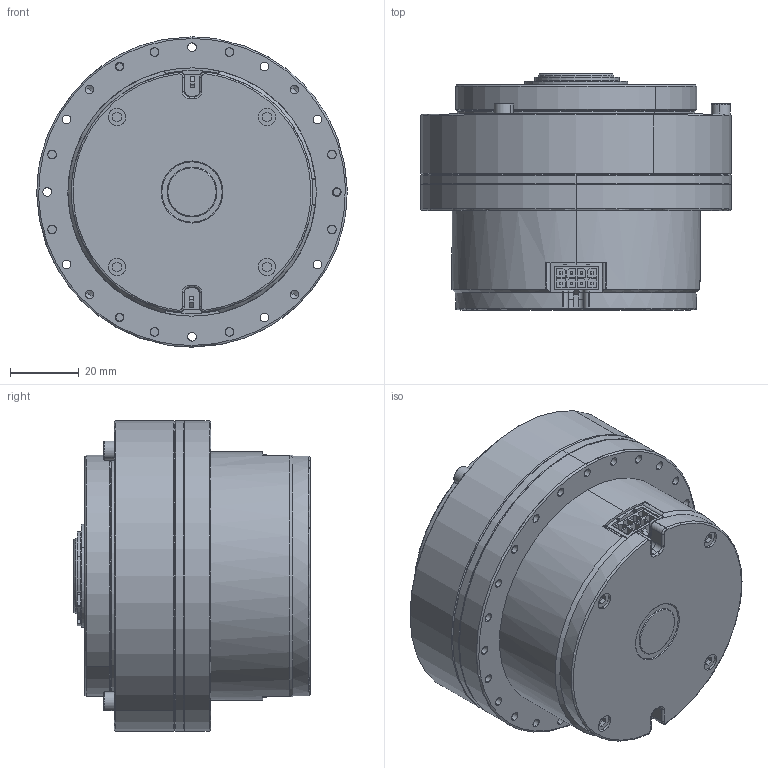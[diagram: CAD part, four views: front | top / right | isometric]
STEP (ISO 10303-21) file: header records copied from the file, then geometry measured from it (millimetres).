
FILE_DESCRIPTION (( 'STEP AP214' ), '1' );
FILE_NAME ('QDD_Pro-PR60-x-90_v2_2.STEP', '2019-07-17T03:44:57', ( 'Microsoft' ), ( 'Microsoft' ), 'SwSTEP 2.0', 'SolidWorks 2018', '' );
FILE_SCHEMA (( 'AUTOMOTIVE_DESIGN' ));
Length unit declared in the file: millimetre
Products named in the file (1): QDD_Pro-PR60-x-90_v2_2
Bounding box: 90 x 68.47 x 90 mm (x, y, z)
Volume: 270449.2 mm3; surface area: 129412 mm2
Topology: 105 solids, 105 shells, 2766 faces, 6818 edges, 4317 vertices
Faces by surface type: plane 1519, cylinder 742, cone 390, bspline 71, torus 44
Entity records: 125350 total; most frequent: CARTESIAN_POINT 30280, ORIENTED_EDGE 13516, DIRECTION 12141, EDGE_CURVE 6758, VERTEX_POINT 4317, LINE 4291, VECTOR 4291, AXIS2_PLACEMENT_3D 3925
